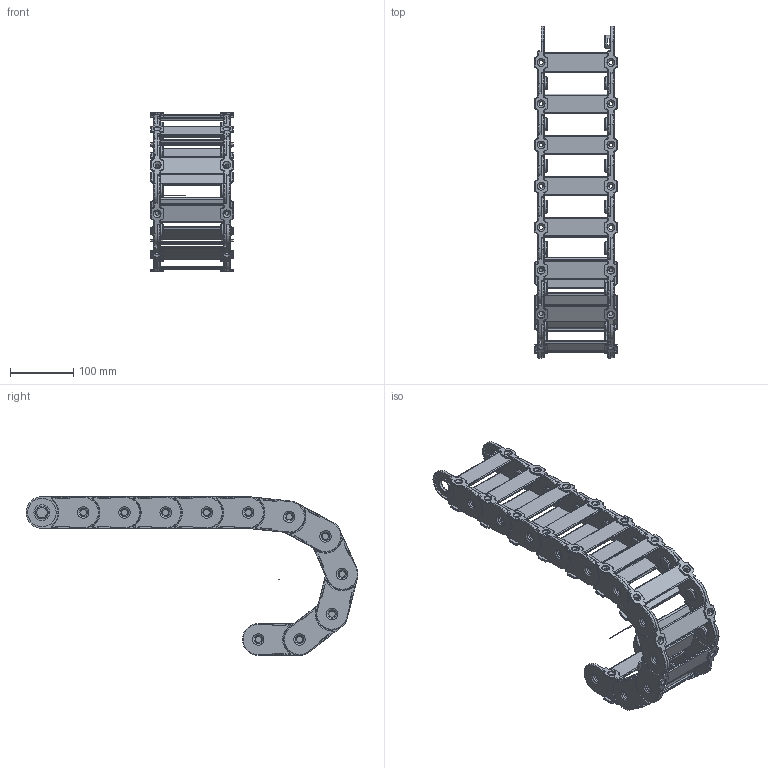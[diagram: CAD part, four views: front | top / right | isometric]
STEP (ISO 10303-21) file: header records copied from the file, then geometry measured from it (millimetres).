
FILE_DESCRIPTION((''),'2;1');
FILE_NAME('C:\Uebbing\TRACE PARTS\PKK 221\PKK 221 vereinfacht.stp','2013-05-02T08:35:03',('Uebbing'),(''),'Autodesk Inventor 10','Autodesk Inventor 10','');
FILE_SCHEMA(('AUTOMOTIVE_DESIGN { 1 0 10303 214 1 1 1 1 }'));
Length unit declared in the file: millimetre
Products named in the file (5): PKK 221 PARAMETRISCH; PKK 220 Glied vereinfacht; PKK 220 Lasche vereinfacht; 22 Steg vereinfacht; Achse
Assembly tree (16 placements, depth 3):
  PKK 221 PARAMETRISCH
    PKK 220 Glied vereinfacht  x11
      PKK 220 Lasche vereinfacht
      22 Steg vereinfacht
    Achse
Bounding box: 130 x 523.06 x 250 mm (x, y, z)
Volume: 877969.1 mm3; surface area: 510310.1 mm2
Topology: 45 solids, 45 shells, 2797 faces, 6758 edges, 4227 vertices
Faces by surface type: cylinder 1255, plane 1014, bspline 352, torus 154, cone 22
Full cylindrical faces by diameter (mm): 1 x1, 6.3 x22, 12.4 x22, 14 x22, 20.1 x22, 20.309 x22, 25 x44, 45 x44
Entity records: 4207 total; most frequent: CARTESIAN_POINT 1015, DIRECTION 667, ORIENTED_EDGE 586, EDGE_CURVE 293, AXIS2_PLACEMENT_3D 247, VERTEX_POINT 194, VECTOR 173, LINE 173
